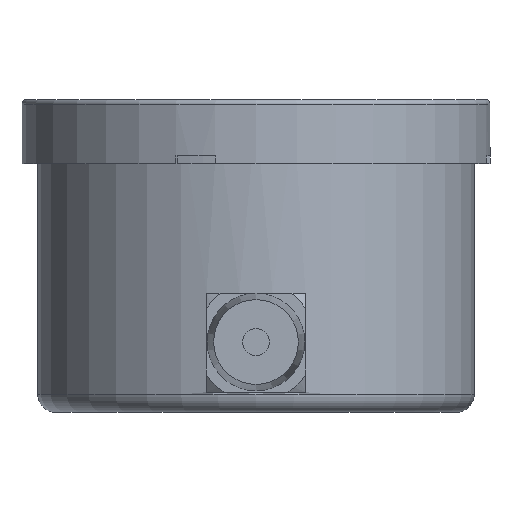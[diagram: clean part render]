
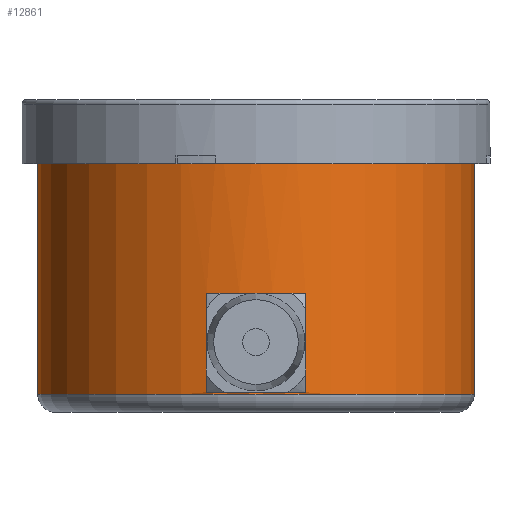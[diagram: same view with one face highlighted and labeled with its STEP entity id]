
A CAD part, front view. The second image highlights one B-rep face of the part: STEP entity #12861.
In plain terms, the highlighted cylindrical face has radius 30.797 mm (diameter 61.595 mm), a full revolution.
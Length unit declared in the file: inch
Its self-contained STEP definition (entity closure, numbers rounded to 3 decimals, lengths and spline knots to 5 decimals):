
#151=FACE_BOUND('',#2209,.T.);
#1449=FACE_OUTER_BOUND('',#2208,.T.);
#2208=EDGE_LOOP('',(#11904,#11905,#11906,#11907));
#2209=EDGE_LOOP('',(#11908,#11909,#11910,#11911));
#3721=LINE('',#21105,#5268);
#3733=LINE('',#21131,#5280);
#3742=LINE('',#21194,#5289);
#5268=VECTOR('',#16981,0.3937);
#5280=VECTOR('',#17009,0.3937);
#5289=VECTOR('',#17088,1.2125);
#5499=CIRCLE('',#13870,1.2125);
#5501=CIRCLE('',#13874,1.2125);
#5521=CIRCLE('',#13909,1.2125);
#5522=CIRCLE('',#13911,1.2125);
#6664=VERTEX_POINT('',#21102);
#6665=VERTEX_POINT('',#21104);
#6666=VERTEX_POINT('',#21110);
#6669=VERTEX_POINT('',#21120);
#6689=VERTEX_POINT('',#21188);
#6690=VERTEX_POINT('',#21192);
#8399=EDGE_CURVE('',#6665,#6664,#3721,.T.);
#8404=EDGE_CURVE('',#6664,#6666,#5499,.T.);
#8408=EDGE_CURVE('',#6669,#6665,#5501,.T.);
#8414=EDGE_CURVE('',#6666,#6669,#3733,.T.);
#8442=EDGE_CURVE('',#6689,#6689,#5521,.T.);
#8443=EDGE_CURVE('',#6690,#6690,#5522,.T.);
#8444=EDGE_CURVE('',#6690,#6689,#3742,.T.);
#11904=ORIENTED_EDGE('',*,*,#8443,.F.);
#11905=ORIENTED_EDGE('',*,*,#8444,.T.);
#11906=ORIENTED_EDGE('',*,*,#8442,.F.);
#11907=ORIENTED_EDGE('',*,*,#8444,.F.);
#11908=ORIENTED_EDGE('',*,*,#8399,.T.);
#11909=ORIENTED_EDGE('',*,*,#8404,.T.);
#11910=ORIENTED_EDGE('',*,*,#8414,.T.);
#11911=ORIENTED_EDGE('',*,*,#8408,.T.);
#12219=CYLINDRICAL_SURFACE('',#13910,1.2125);
#12861=ADVANCED_FACE('',(#1449,#151),#12219,.T.);
#13870=AXIS2_PLACEMENT_3D('',#21112,#16988,#16989);
#13874=AXIS2_PLACEMENT_3D('',#21121,#16998,#16999);
#13909=AXIS2_PLACEMENT_3D('',#21190,#17082,#17083);
#13910=AXIS2_PLACEMENT_3D('',#21191,#17084,#17085);
#13911=AXIS2_PLACEMENT_3D('',#21193,#17086,#17087);
#16981=DIRECTION('',(0.,0.,1.));
#16988=DIRECTION('center_axis',(0.,0.,1.));
#16989=DIRECTION('ref_axis',(-1.,0.,0.));
#16998=DIRECTION('center_axis',(0.,0.,-1.));
#16999=DIRECTION('ref_axis',(-1.,0.,0.));
#17009=DIRECTION('',(0.,0.,-1.));
#17082=DIRECTION('center_axis',(0.,0.,-1.));
#17083=DIRECTION('ref_axis',(-1.,0.,0.));
#17084=DIRECTION('center_axis',(0.,0.,1.));
#17085=DIRECTION('ref_axis',(-1.,0.,0.));
#17086=DIRECTION('center_axis',(0.,0.,1.));
#17087=DIRECTION('ref_axis',(-1.,0.,0.));
#17088=DIRECTION('',(0.,0.,-1.));
#21102=CARTESIAN_POINT('',(-0.275,-1.1809,0.6619));
#21104=CARTESIAN_POINT('',(-0.275,-1.1809,0.1119));
#21105=CARTESIAN_POINT('',(-0.275,-1.1809,0.));
#21110=CARTESIAN_POINT('',(0.275,-1.1809,0.6619));
#21112=CARTESIAN_POINT('Origin',(0.,0.,0.6619));
#21120=CARTESIAN_POINT('',(0.275,-1.1809,0.1119));
#21121=CARTESIAN_POINT('Origin',(0.,0.,0.1119));
#21131=CARTESIAN_POINT('',(0.275,-1.1809,0.));
#21188=CARTESIAN_POINT('',(1.2125,0.,0.1));
#21190=CARTESIAN_POINT('Origin',(0.,0.,0.1));
#21191=CARTESIAN_POINT('Origin',(0.,0.,0.));
#21192=CARTESIAN_POINT('',(1.2125,0.,1.65));
#21193=CARTESIAN_POINT('Origin',(0.,0.,1.65));
#21194=CARTESIAN_POINT('',(1.2125,0.,0.));
